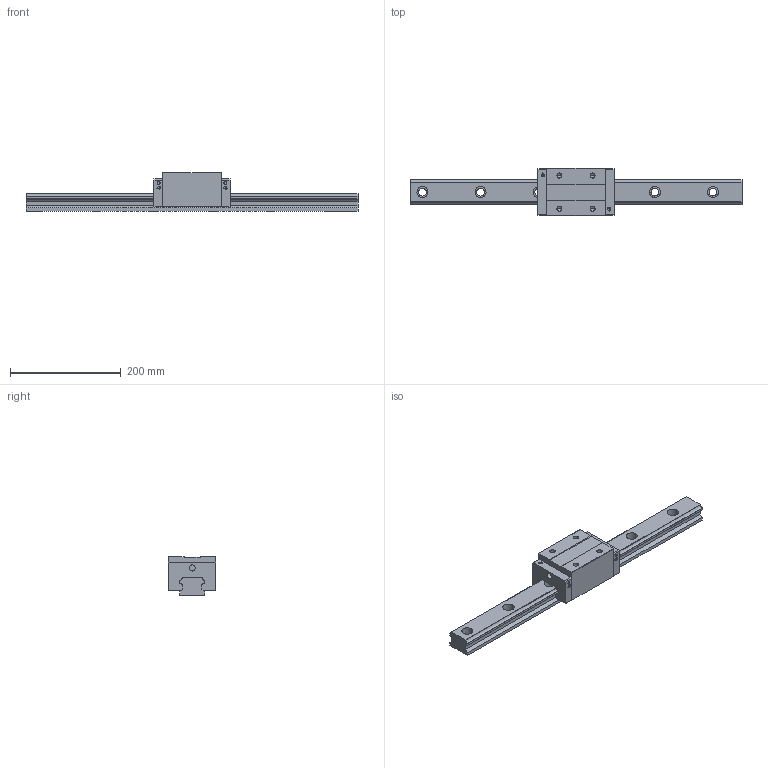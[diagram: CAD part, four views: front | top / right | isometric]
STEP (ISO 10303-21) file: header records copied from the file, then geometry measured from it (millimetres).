
FILE_DESCRIPTION (( 'STEP AP203' ), '1' );
FILE_NAME ('SRH45VL-XNC.STEP', '2026-02-12T07:36:29', ( '' ), ( '' ), 'SwSTEP 2.0', 'SolidWorks 2022', '' );
FILE_SCHEMA (( 'CONFIG_CONTROL_DESIGN' ));
Length unit declared in the file: millimetre
Products named in the file (1): SRH45VL-XNC
Bounding box: 600 x 85.5 x 70 mm (x, y, z)
Volume: 1267483.2 mm3; surface area: 159814.4 mm2
Topology: 1 solids, 1 shells, 353 faces, 954 edges, 626 vertices
Faces by surface type: plane 209, cylinder 80, bspline 48, cone 16
Entity records: 13827 total; most frequent: CARTESIAN_POINT 5046, ORIENTED_EDGE 1892, DIRECTION 1632, EDGE_CURVE 946, LINE 680, VECTOR 680, VERTEX_POINT 626, AXIS2_PLACEMENT_3D 476
